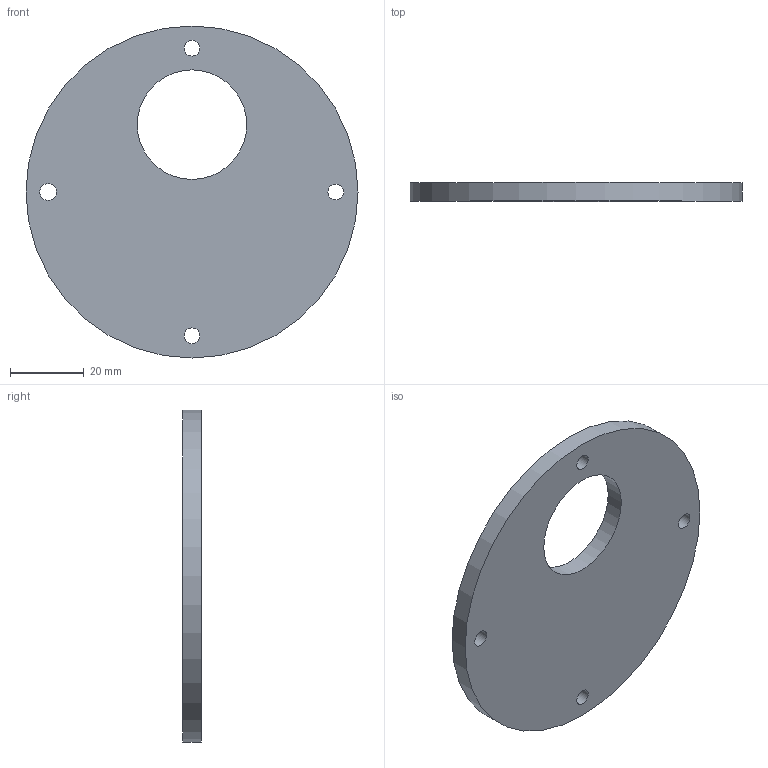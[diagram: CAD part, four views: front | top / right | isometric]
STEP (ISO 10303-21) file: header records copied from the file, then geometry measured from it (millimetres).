
FILE_DESCRIPTION(/* description */ (''),/* implementation_level */ '2;1');
FILE_NAME(/* name */ 'OuterCircle.step',/* time_stamp */ '2024-08-31T16:34:08-04:00',/* author */ (''),/* organization */ (''),/* preprocessor_version */ 'ST-DEVELOPER v20',/* originating_system */ 'Autodesk Translation Framework v13.14.0.145',/* authorisation */ '');
FILE_SCHEMA (('AUTOMOTIVE_DESIGN { 1 0 10303 214 3 1 1 }'));
Length unit declared in the file: millimetre
Products named in the file (1): OuterCircle 1
Bounding box: 90 x 5 x 90 mm (x, y, z)
Volume: 27920.4 mm3; surface area: 13329 mm2
Topology: 1 solids, 1 shells, 12 faces, 27 edges, 17 vertices
Faces by surface type: cylinder 6, cone 4, plane 2
Full cylindrical faces by diameter (mm): 4.305 x3, 4.547 x1, 29.7 x1, 90 x1
Entity records: 397 total; most frequent: DIRECTION 70, CARTESIAN_POINT 57, ORIENTED_EDGE 54, AXIS2_PLACEMENT_3D 30, EDGE_CURVE 27, EDGE_LOOP 22, CIRCLE 17, VERTEX_POINT 17
